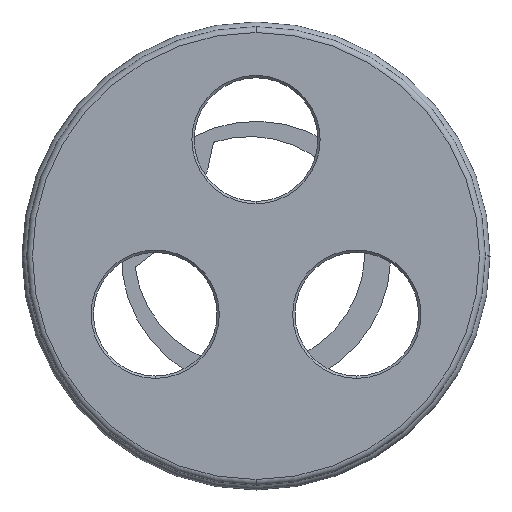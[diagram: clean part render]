
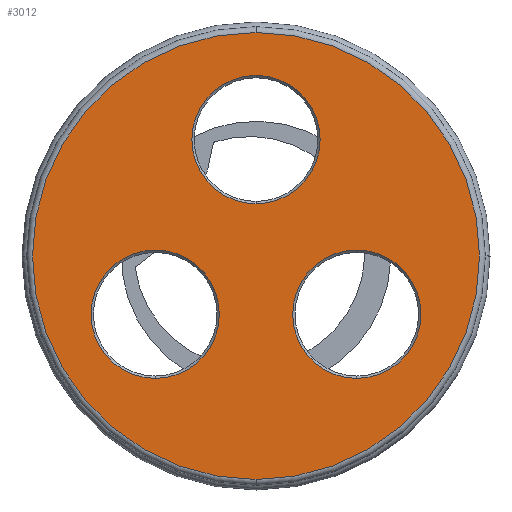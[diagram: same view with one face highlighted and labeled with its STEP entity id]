
A CAD part, front view. The second image highlights one B-rep face of the part: STEP entity #3012.
In plain terms, the highlighted planar face has unit normal (0, -1, 0).
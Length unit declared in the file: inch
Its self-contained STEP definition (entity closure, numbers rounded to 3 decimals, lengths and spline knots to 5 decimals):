
#59 = CARTESIAN_POINT ( 'NONE',  ( -0.43301, 0., 0.0255 ) ) ;
#167 = CARTESIAN_POINT ( 'NONE',  ( 0., 0., 0. ) ) ;
#207 = AXIS2_PLACEMENT_3D ( 'NONE', #2427, #2677, #1108 ) ;
#219 = ORIENTED_EDGE ( 'NONE', *, *, #294, .T. ) ;
#259 = DIRECTION ( 'NONE',  ( 0., 0., 1. ) ) ;
#263 = CIRCLE ( 'NONE', #1403, 0.2755 ) ;
#267 = EDGE_LOOP ( 'NONE', ( #2232, #2469 ) ) ;
#294 = EDGE_CURVE ( 'NONE', #2579, #1109, #1348, .T. ) ;
#315 = DIRECTION ( 'NONE',  ( 0., 0., 1. ) ) ;
#349 = VERTEX_POINT ( 'NONE', #1368 ) ;
#383 = ORIENTED_EDGE ( 'NONE', *, *, #2718, .T. ) ;
#410 = CARTESIAN_POINT ( 'NONE',  ( 0., 0., 0.96 ) ) ;
#456 = DIRECTION ( 'NONE',  ( 0., 0., 1. ) ) ;
#487 = EDGE_CURVE ( 'NONE', #2075, #1397, #1056, .T. ) ;
#518 = CARTESIAN_POINT ( 'NONE',  ( -0.43301, 0., -0.25 ) ) ;
#529 = DIRECTION ( 'NONE',  ( 0., 0., 1. ) ) ;
#827 = CARTESIAN_POINT ( 'NONE',  ( 0., 0., 0.7755 ) ) ;
#839 = VERTEX_POINT ( 'NONE', #1627 ) ;
#953 = FACE_BOUND ( 'NONE', #2531, .T. ) ;
#991 = EDGE_CURVE ( 'NONE', #1397, #2075, #1670, .T. ) ;
#1056 = CIRCLE ( 'NONE', #2967, 0.96 ) ;
#1085 = VERTEX_POINT ( 'NONE', #3061 ) ;
#1108 = DIRECTION ( 'NONE',  ( 0., 0., 1. ) ) ;
#1109 = VERTEX_POINT ( 'NONE', #2794 ) ;
#1126 = ORIENTED_EDGE ( 'NONE', *, *, #1359, .T. ) ;
#1128 = CARTESIAN_POINT ( 'NONE',  ( 0., 0., -0.96 ) ) ;
#1269 = AXIS2_PLACEMENT_3D ( 'NONE', #1753, #2879, #259 ) ;
#1348 = CIRCLE ( 'NONE', #207, 0.2755 ) ;
#1358 = CIRCLE ( 'NONE', #2759, 0.2755 ) ;
#1359 = EDGE_CURVE ( 'NONE', #349, #1085, #2521, .T. ) ;
#1368 = CARTESIAN_POINT ( 'NONE',  ( 0.43301, 0., 0.0255 ) ) ;
#1390 = DIRECTION ( 'NONE',  ( 0., 0., 1. ) ) ;
#1392 = CARTESIAN_POINT ( 'NONE',  ( 0., 0., 0. ) ) ;
#1397 = VERTEX_POINT ( 'NONE', #1128 ) ;
#1403 = AXIS2_PLACEMENT_3D ( 'NONE', #518, #2095, #529 ) ;
#1474 = DIRECTION ( 'NONE',  ( 0., 1., 0. ) ) ;
#1537 = PLANE ( 'NONE',  #1269 ) ;
#1627 = CARTESIAN_POINT ( 'NONE',  ( -0.43301, 0., -0.5255 ) ) ;
#1643 = EDGE_CURVE ( 'NONE', #1085, #349, #3053, .T. ) ;
#1651 = DIRECTION ( 'NONE',  ( 0., 0., 1. ) ) ;
#1670 = CIRCLE ( 'NONE', #3147, 0.96 ) ;
#1753 = CARTESIAN_POINT ( 'NONE',  ( 0., 0., 0. ) ) ;
#1832 = VERTEX_POINT ( 'NONE', #59 ) ;
#1923 = CARTESIAN_POINT ( 'NONE',  ( 0., 0., 0.5 ) ) ;
#1965 = AXIS2_PLACEMENT_3D ( 'NONE', #2042, #2539, #2303 ) ;
#1988 = ORIENTED_EDGE ( 'NONE', *, *, #2334, .T. ) ;
#2042 = CARTESIAN_POINT ( 'NONE',  ( 0.43301, 0., -0.25 ) ) ;
#2075 = VERTEX_POINT ( 'NONE', #410 ) ;
#2095 = DIRECTION ( 'NONE',  ( 0., 1., 0. ) ) ;
#2135 = ORIENTED_EDGE ( 'NONE', *, *, #1643, .T. ) ;
#2183 = DIRECTION ( 'NONE',  ( 0., -1., 0. ) ) ;
#2232 = ORIENTED_EDGE ( 'NONE', *, *, #487, .T. ) ;
#2236 = DIRECTION ( 'NONE',  ( 0., -1., 0. ) ) ;
#2263 = EDGE_LOOP ( 'NONE', ( #1988, #3050 ) ) ;
#2303 = DIRECTION ( 'NONE',  ( 0., 0., 1. ) ) ;
#2334 = EDGE_CURVE ( 'NONE', #839, #1832, #1358, .T. ) ;
#2347 = FACE_BOUND ( 'NONE', #3297, .T. ) ;
#2427 = CARTESIAN_POINT ( 'NONE',  ( 0., 0., 0.5 ) ) ;
#2451 = CARTESIAN_POINT ( 'NONE',  ( 0.43301, 0., -0.25 ) ) ;
#2469 = ORIENTED_EDGE ( 'NONE', *, *, #991, .T. ) ;
#2510 = DIRECTION ( 'NONE',  ( 0., 0., 1. ) ) ;
#2521 = CIRCLE ( 'NONE', #2682, 0.2755 ) ;
#2524 = AXIS2_PLACEMENT_3D ( 'NONE', #1923, #2953, #1390 ) ;
#2531 = EDGE_LOOP ( 'NONE', ( #383, #219 ) ) ;
#2539 = DIRECTION ( 'NONE',  ( 0., 1., 0. ) ) ;
#2579 = VERTEX_POINT ( 'NONE', #827 ) ;
#2677 = DIRECTION ( 'NONE',  ( 0., 1., 0. ) ) ;
#2682 = AXIS2_PLACEMENT_3D ( 'NONE', #2451, #2703, #315 ) ;
#2703 = DIRECTION ( 'NONE',  ( 0., 1., 0. ) ) ;
#2705 = FACE_BOUND ( 'NONE', #2263, .T. ) ;
#2718 = EDGE_CURVE ( 'NONE', #1109, #2579, #2956, .T. ) ;
#2759 = AXIS2_PLACEMENT_3D ( 'NONE', #3078, #1474, #456 ) ;
#2794 = CARTESIAN_POINT ( 'NONE',  ( 0., 0., 0.2245 ) ) ;
#2879 = DIRECTION ( 'NONE',  ( 0., 1., 0. ) ) ;
#2953 = DIRECTION ( 'NONE',  ( 0., 1., 0. ) ) ;
#2956 = CIRCLE ( 'NONE', #2524, 0.2755 ) ;
#2967 = AXIS2_PLACEMENT_3D ( 'NONE', #1392, #2183, #1651 ) ;
#3012 = ADVANCED_FACE ( 'NONE', ( #2705, #2347, #953, #3126 ), #1537, .F. ) ;
#3050 = ORIENTED_EDGE ( 'NONE', *, *, #3123, .T. ) ;
#3053 = CIRCLE ( 'NONE', #1965, 0.2755 ) ;
#3061 = CARTESIAN_POINT ( 'NONE',  ( 0.43301, 0., -0.5255 ) ) ;
#3078 = CARTESIAN_POINT ( 'NONE',  ( -0.43301, 0., -0.25 ) ) ;
#3123 = EDGE_CURVE ( 'NONE', #1832, #839, #263, .T. ) ;
#3126 = FACE_OUTER_BOUND ( 'NONE', #267, .T. ) ;
#3147 = AXIS2_PLACEMENT_3D ( 'NONE', #167, #2236, #2510 ) ;
#3297 = EDGE_LOOP ( 'NONE', ( #2135, #1126 ) ) ;
